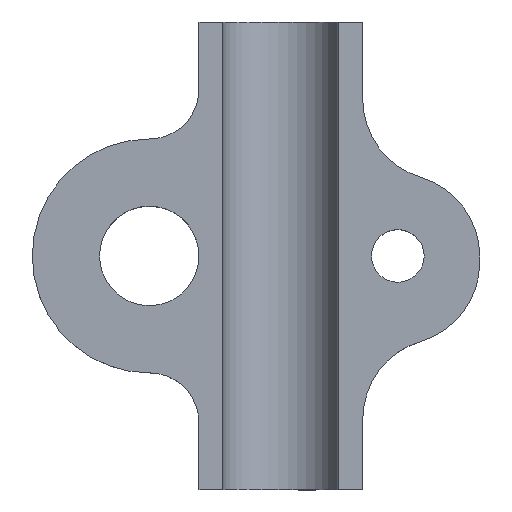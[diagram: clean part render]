
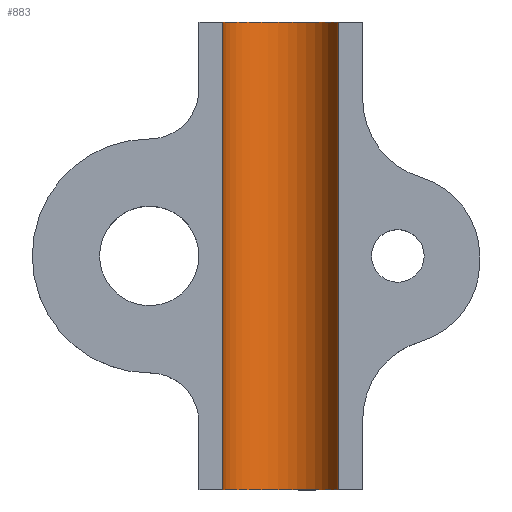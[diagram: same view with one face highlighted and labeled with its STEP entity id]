
A CAD part, top view. The second image highlights one B-rep face of the part: STEP entity #883.
In plain terms, the highlighted cylindrical face has radius 4.95 mm (diameter 9.9 mm), a partial arc.
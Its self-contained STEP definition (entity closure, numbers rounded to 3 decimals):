
#73=CARTESIAN_POINT('',(16.175,-20.0,6.5));
#74=VERTEX_POINT('',#73);
#75=CARTESIAN_POINT('',(16.175,20.0,6.5));
#76=VERTEX_POINT('',#75);
#77=CARTESIAN_POINT('',(16.175,-20.0,6.5));
#78=DIRECTION('',(0.0,1.0,0.0));
#79=VECTOR('',#78,40.0);
#80=LINE('',#77,#79);
#81=EDGE_CURVE('',#74,#76,#80,.T.);
#483=CARTESIAN_POINT('',(6.3,-20.0,7.));
#484=VERTEX_POINT('',#483);
#485=CARTESIAN_POINT('',(11.25,-20.0,7.));
#486=DIRECTION('',(0.0,1.0,0.0));
#487=DIRECTION('',(-1.0,0.0,0.0));
#488=AXIS2_PLACEMENT_3D('',#485,#486,#487);
#489=CIRCLE('',#488,4.95);
#490=EDGE_CURVE('',#74,#484,#489,.T.);
#859=CARTESIAN_POINT('',(11.25,20.0,7.));
#860=DIRECTION('',(0.,-1.0,0.0));
#861=DIRECTION('',(-1.0,0.0,0.0));
#862=AXIS2_PLACEMENT_3D('',#859,#860,#861);
#863=CYLINDRICAL_SURFACE('',#862,4.95);
#864=ORIENTED_EDGE('',*,*,#81,.T.);
#865=CARTESIAN_POINT('',(6.3,20.,7.));
#866=VERTEX_POINT('',#865);
#867=CARTESIAN_POINT('',(11.25,20.,7.));
#868=DIRECTION('',(0.0,-1.0,0.0));
#869=DIRECTION('',(-1.0,0.0,0.0));
#870=AXIS2_PLACEMENT_3D('',#867,#868,#869);
#871=CIRCLE('',#870,4.95);
#872=EDGE_CURVE('',#866,#76,#871,.T.);
#873=ORIENTED_EDGE('',*,*,#872,.F.);
#874=CARTESIAN_POINT('',(6.3,-20.0,7.));
#875=DIRECTION('',(0.0,1.0,0.0));
#876=VECTOR('',#875,40.0);
#877=LINE('',#874,#876);
#878=EDGE_CURVE('',#484,#866,#877,.T.);
#879=ORIENTED_EDGE('',*,*,#878,.F.);
#880=ORIENTED_EDGE('',*,*,#490,.F.);
#881=EDGE_LOOP('',(#864,#873,#879,#880));
#882=FACE_OUTER_BOUND('',#881,.T.);
#883=ADVANCED_FACE('',(#882),#863,.F.);
